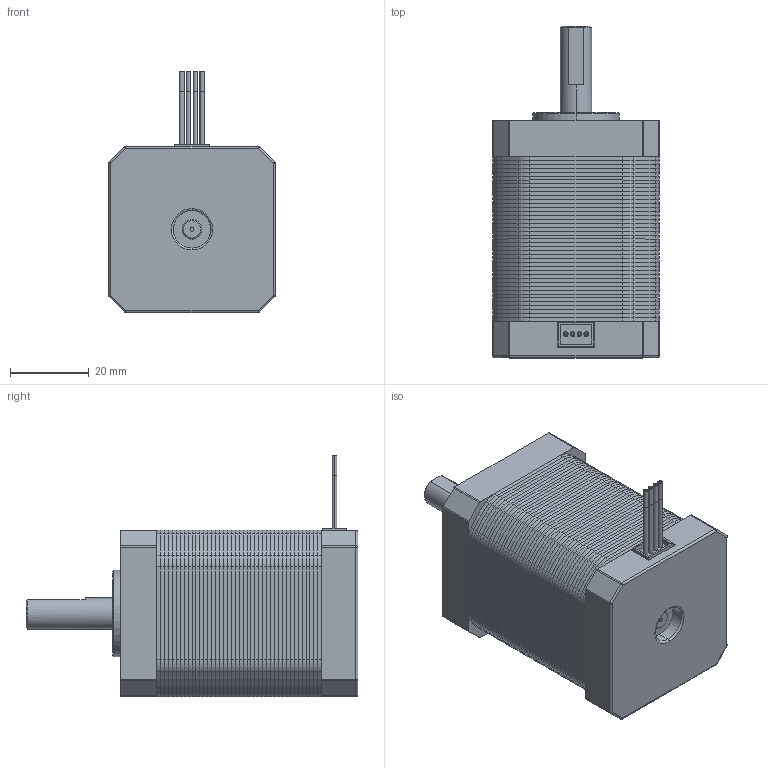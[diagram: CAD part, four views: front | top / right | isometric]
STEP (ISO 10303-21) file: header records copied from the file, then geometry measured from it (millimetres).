
FILE_DESCRIPTION (( 'STEP AP214' ), '1' );
FILE_NAME ('NEMA17_60mm_8mm_shaft.STEP', '2020-11-14T13:22:37', ( 'Moofasta' ), ( '' ), 'SwSTEP 2.0', 'SolidWorks 2020', '' );
FILE_SCHEMA (( 'AUTOMOTIVE_DESIGN' ));
Length unit declared in the file: millimetre
Products named in the file (1): NEMA17_60mm_8mm_shaft
Bounding box: 42.3 x 84.4 x 61.3 mm (x, y, z)
Volume: 104480.1 mm3; surface area: 159681.7 mm2
Topology: 53 solids, 53 shells, 921 faces, 2380 edges, 1567 vertices
Faces by surface type: cylinder 580, plane 315, cone 16, sphere 8, torus 2
Entity records: 38007 total; most frequent: DIRECTION 5396, CARTESIAN_POINT 4867, ORIENTED_EDGE 4744, EDGE_CURVE 2372, AXIS2_PLACEMENT_3D 2104, VERTEX_POINT 1567, LINE 1188, VECTOR 1188
